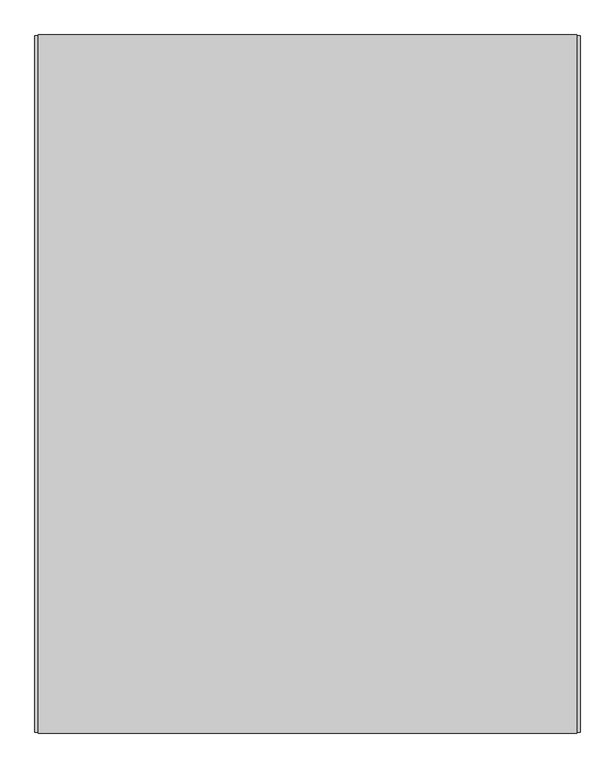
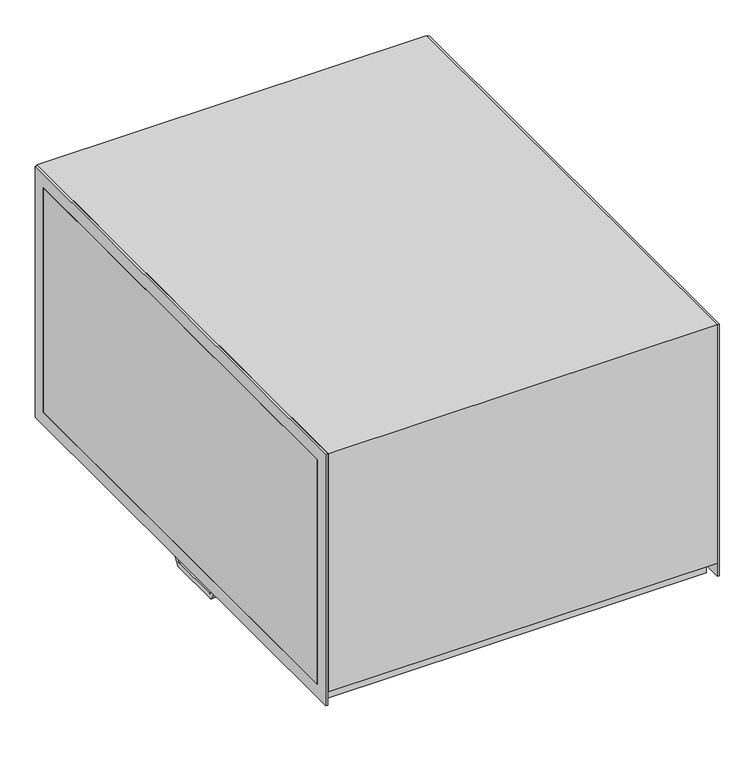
"""IFC4 building model written with IfcOpenShell, lengths in millimetres: unitary equipment geometry, VE-Wentylator-ParaForma-Harmann-DRBI-Nawiewny : 100/50/10500T."""

from ifc_helpers import new_model, si_unit, point, frame, frame_2d, origin, place, context, project, spatial, polyline, circle_curve, trimmed, segment, composite_curve, outline, extrude, faceted_brep, source, transform, mapped, element, save


def unitary_equipment_e0532d33(model_context):
    return source(origin(), model_context, "Body", "SolidModel", [
        faceted_brep([(-402.7, -497.5, -290.4), (-402.7, -497.5, -250.0), (-402.7, 497.5, -250.0), (-402.7, 497.5, -290.4), (406.3, -497.5, -290.4), (406.3, 497.5, -290.4), (406.3, 497.5, -250.0), (406.3, -497.5, -250.0), (-410.0, -531.0, -250.0), (-410.0, -531.0, 281.0), (-410.0, 531.0, 281.0), (-410.0, 531.0, -250.0), (-410.0, 500.0, -250.0), (-410.0, 500.0, 250.0), (-410.0, -500.0, 250.0), (-410.0, -500.0, -250.0), (410.0, 531.0, -250.0), (410.0, 531.0, 281.0), (410.0, -531.0, 281.0), (410.0, -531.0, -250.0), (410.0, -500.0, -250.0), (410.0, -500.0, 250.0), (410.0, 500.0, 250.0), (410.0, 500.0, -250.0), (-415.0, -500.0, -250.0), (-415.0, 500.0, -250.0), (415.0, 500.0, -250.0), (415.0, -500.0, -250.0), (-415.0, -500.0, 250.0), (-415.0, 500.0, 250.0), (415.0, 500.0, 250.0), (415.0, -500.0, 250.0)], [[[0, 1, 2, 3]], [[4, 5, 6, 7]], [[1, 0, 4, 7]], [[3, 2, 6, 5]], [[0, 3, 5, 4]], [[8, 9, 10, 11, 12, 13, 14, 15]], [[16, 17, 18, 19, 20, 21, 22, 23]], [[9, 8, 19, 18]], [[10, 9, 18, 17]], [[11, 10, 17, 16]], [[19, 8, 15, 24, 25, 12, 11, 16, 23, 26, 27, 20], [2, 1, 7, 6]], [[24, 28, 29, 25]], [[28, 24, 15, 14]], [[29, 28, 14, 13]], [[25, 29, 13, 12]], [[27, 26, 30, 31]], [[27, 31, 21, 20]], [[31, 30, 22, 21]], [[30, 26, 23, 22]]]),
        extrude(outline(polyline([(-530.0, -280.0), (-530.0, 280.0), (530.0, 280.0), (530.0, -280.0), (-530.0, -280.0)]), holes=[polyline([(-500.0, -250.0), (500.0, -250.0), (500.0, 250.0), (-500.0, 250.0), (-500.0, -250.0)])]), frame((410.0, 0.0, 0.0), z_axis=(1.0, 0.0, 0.0), x_axis=(0.0, 1.0, 0.0)), (0.0, 0.0, 1.0), 5.0),
        extrude(outline(polyline([(-530.0, -280.0), (-530.0, 280.0), (530.0, 280.0), (530.0, -280.0), (-530.0, -280.0)]), holes=[polyline([(-500.0, -250.0), (500.0, -250.0), (500.0, 250.0), (-500.0, 250.0), (-500.0, -250.0)])]), frame((-415.0, 0.0, 0.0), z_axis=(1.0, 0.0, 0.0), x_axis=(0.0, 1.0, 0.0)), (0.0, 0.0, 1.0), 5.0),
        extrude(outline(composite_curve([segment(polyline([(-85.0, -298.5), (-85.0, -285.5), (-60.0, -285.5), (-60.0, -322.5)]), True, "CONTINUOUS"), segment(trimmed(circle_curve(frame_2d((-55.0, -322.5)), 5.0), [point((-60.0, -322.5))], [point((-55.0, -327.5))], True, "CARTESIAN"), True, "CONTINUOUS"), segment(polyline([(-55.0, -327.5), (55.0, -327.5)]), True, "CONTINUOUS"), segment(trimmed(circle_curve(frame_2d((55.0, -322.5)), 5.0), [point((55.0, -327.5))], [point((60.0, -322.5))], True, "CARTESIAN"), True, "CONTINUOUS"), segment(polyline([(60.0, -322.5), (60.0, -285.5), (85.0, -285.5), (85.0, -298.5), (61.4754291, -335.1983306)]), True, "CONTINUOUS"), segment(trimmed(circle_curve(frame_2d((57.2660334, -332.5)), 5.0), [point((61.4754291, -335.1983306))], [point((57.2660334, -337.5))], False, "CARTESIAN"), True, "CONTINUOUS"), segment(polyline([(57.2660334, -337.5), (-57.2660334, -337.5)]), True, "CONTINUOUS"), segment(trimmed(circle_curve(frame_2d((-57.2660334, -332.5)), 5.0), [point((-57.2660334, -337.5))], [point((-61.4754291, -335.1983306))], False, "CARTESIAN"), True, "CONTINUOUS"), segment(polyline([(-61.4754291, -335.1983306), (-85.0, -298.5)]), True, "CONTINUOUS")], self_intersect=False)), frame((-385.3, 0.0, 0.0), z_axis=(1.0, 0.0, 0.0), x_axis=(0.0, 1.0, 0.0)), (0.0, 0.0, 1.0), 28.0),
        extrude(outline(composite_curve([segment(polyline([(380.3, -27.5), (295.3, -27.5)]), True, "CONTINUOUS"), segment(trimmed(circle_curve(frame_2d((295.3, -22.5)), 5.0), [point((295.3, -27.5))], [point((290.3, -22.5))], False, "CARTESIAN"), True, "CONTINUOUS"), segment(polyline([(290.3, -22.5), (290.3, 77.5)]), True, "CONTINUOUS"), segment(trimmed(circle_curve(frame_2d((295.3, 77.5)), 5.0), [point((290.3, 77.5))], [point((295.3, 82.5))], False, "CARTESIAN"), True, "CONTINUOUS"), segment(polyline([(295.3, 82.5), (380.3, 82.5)]), True, "CONTINUOUS"), segment(trimmed(circle_curve(frame_2d((380.3, 77.5)), 5.0), [point((380.3, 82.5))], [point((385.3, 77.5))], False, "CARTESIAN"), True, "CONTINUOUS"), segment(polyline([(385.3, 77.5), (385.3, -22.5)]), True, "CONTINUOUS"), segment(trimmed(circle_curve(frame_2d((380.3, -22.5)), 5.0), [point((385.3, -22.5))], [point((380.3, -27.5))], False, "CARTESIAN"), True, "CONTINUOUS")], self_intersect=False)), frame((0.0, 0.0, -339.9), z_axis=(0.0, 0.0, 1.0), x_axis=(1.0, 0.0, 0.0)), (0.0, 0.0, 1.0), 49.5),
    ])


if __name__ == "__main__":
    model = new_model("IFC4")
    model_context = context("Model", 3, world=origin())
    ifc_project = project(units=[si_unit("LENGTHUNIT", "METRE", prefix="MILLI")], contexts=[model_context])
    site = spatial("IfcSite", under=ifc_project)
    building = spatial("IfcBuilding", under=site)
    placement = place(None, origin())
    unitary_equipment_shape = unitary_equipment_e0532d33(model_context)
    element("IfcUnitaryEquipment", 1, ObjectType="VE-Wentylator-ParaForma-Harmann-DRBI-Nawiewny : 100/50/10500T", at=placement, inside=building, context=model_context, shape_type="MappedRepresentation", body=[
        mapped(unitary_equipment_shape, transform((0.0, 0.0, 0.0), x_axis=(1.0, 0.0, 0.0), y_axis=(0.0, 1.0, 0.0), z_axis=(0.0, 0.0, 1.0))),
    ])
    save(model, "model.ifc")
